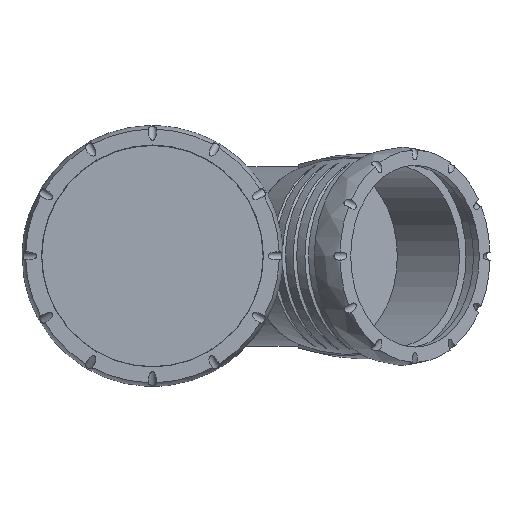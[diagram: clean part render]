
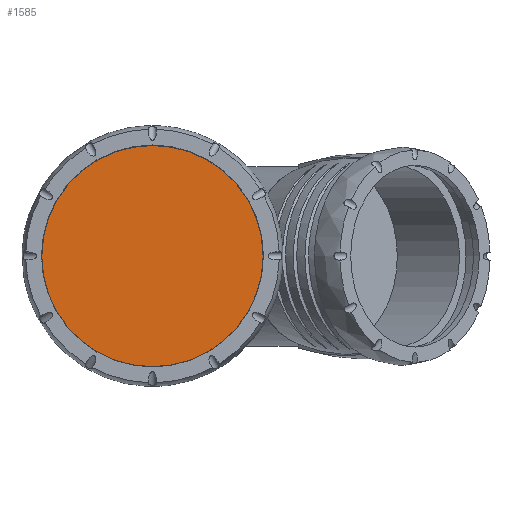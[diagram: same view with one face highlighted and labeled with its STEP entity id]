
A CAD part, top view. The second image highlights one B-rep face of the part: STEP entity #1585.
In plain terms, the highlighted planar face has unit normal (0, 0, 1).
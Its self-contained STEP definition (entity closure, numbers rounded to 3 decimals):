
#216=PLANE('',#1710);
#292=FACE_OUTER_BOUND('',#399,.T.);
#399=EDGE_LOOP('',(#1011));
#534=CIRCLE('',#1711,55.5);
#607=VERTEX_POINT('',#2306);
#775=EDGE_CURVE('',#607,#607,#534,.T.);
#1011=ORIENTED_EDGE('',*,*,#775,.T.);
#1585=ADVANCED_FACE('',(#292),#216,.T.);
#1710=AXIS2_PLACEMENT_3D('',#2305,#1894,#1895);
#1711=AXIS2_PLACEMENT_3D('',#2307,#1896,#1897);
#1894=DIRECTION('center_axis',(0.,0.,
1.));
#1895=DIRECTION('ref_axis',(0.,1.,0.));
#1896=DIRECTION('center_axis',(0.,0.,
1.));
#1897=DIRECTION('ref_axis',(0.,1.,0.));
#2305=CARTESIAN_POINT('Origin',(0.,0.,
208.2));
#2306=CARTESIAN_POINT('',(-55.5,0.,208.2));
#2307=CARTESIAN_POINT('Origin',(0.,0.,
208.2));
